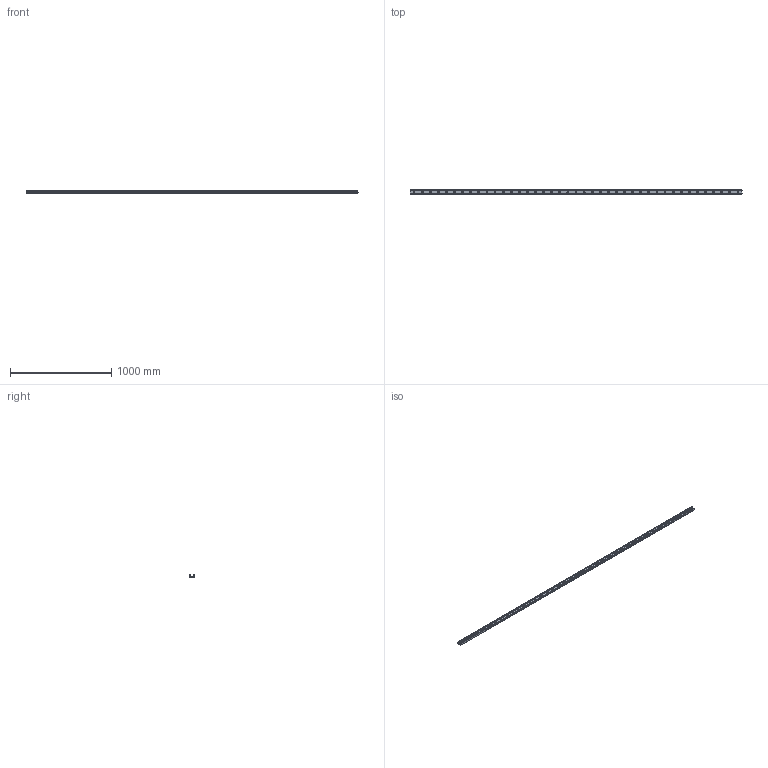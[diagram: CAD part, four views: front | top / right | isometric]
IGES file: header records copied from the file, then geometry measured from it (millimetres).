
Start section: SolidWorks IGES file using analytic representation for surfaces
Global section: file name: C:\Users\IanO\Desktop\43\L1943.ULC43_v2_20180121_IGES\L1943.ULC43-3280.igs; native system: SolidWorks 2017; preprocessor: SolidWorks 2017; author: IanO; date: 190121.085240; units: millimetre
Bounding box: 3280 x 43 x 21 mm (x, y, z)
Surface area: 514306.9 mm2 (no closed solid volume)
Topology: 0 solids, 0 shells, 231 faces, 6198 edges, 6198 vertices
Faces by surface type: revolution 177, bspline 54
